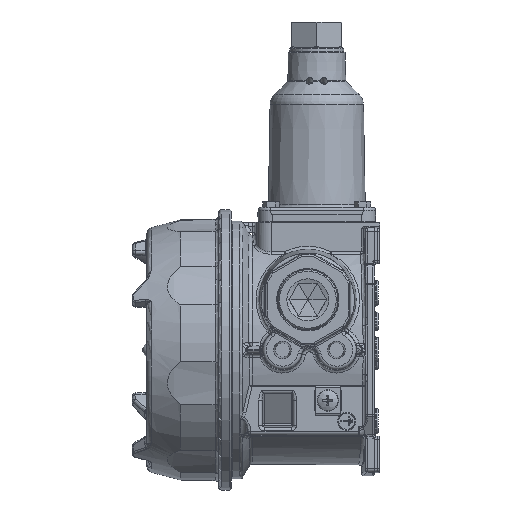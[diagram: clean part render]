
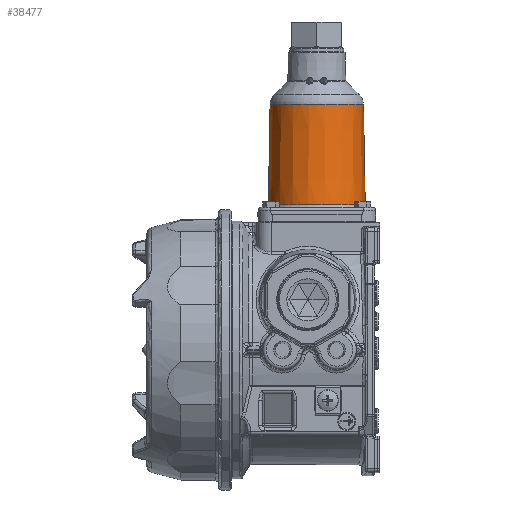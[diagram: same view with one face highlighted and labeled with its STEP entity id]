
A CAD part, left-side view. The second image highlights one B-rep face of the part: STEP entity #38477.
In plain terms, the highlighted conical face has half-angle 1 degrees and reference radius 21.463 mm.
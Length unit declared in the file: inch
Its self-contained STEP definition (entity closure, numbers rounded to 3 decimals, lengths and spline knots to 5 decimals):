
#1022 = DIRECTION ( 'NONE',  ( 0., -1., 0. ) ) ;
#3150 = FACE_BOUND ( 'NONE', #31677, .T. ) ;
#6840 = CARTESIAN_POINT ( 'NONE',  ( 0.0005, 0.81414, 4.2809 ) ) ;
#7999 = AXIS2_PLACEMENT_3D ( 'NONE', #11709, #39856, #18406 ) ;
#10188 = CARTESIAN_POINT ( 'NONE',  ( 0.0005, 0.0005, 2.53329 ) ) ;
#10283 = DIRECTION ( 'NONE',  ( 0., 0., -1. ) ) ;
#10641 = CIRCLE ( 'NONE', #33416, 0.81364 ) ;
#11277 = ORIENTED_EDGE ( 'NONE', *, *, #33120, .T. ) ;
#11709 = CARTESIAN_POINT ( 'NONE',  ( 0.0005, 0.0005, 2.48416 ) ) ;
#13343 = CARTESIAN_POINT ( 'NONE',  ( 0.0005, -0.84364, 2.53329 ) ) ;
#18406 = DIRECTION ( 'NONE',  ( 0., -1., 0. ) ) ;
#22602 = DIRECTION ( 'NONE',  ( 0., 0., 1. ) ) ;
#22692 = DIRECTION ( 'NONE',  ( 0., 1., 0. ) ) ;
#24390 = VERTEX_POINT ( 'NONE', #6840 ) ;
#25262 = EDGE_CURVE ( 'NONE', #24390, #24390, #10641, .T. ) ;
#28163 = CONICAL_SURFACE ( 'NONE', #7999, 0.845, 0.017 ) ;
#31677 = EDGE_LOOP ( 'NONE', ( #40199 ) ) ;
#33120 = EDGE_CURVE ( 'NONE', #37828, #37828, #34426, .T. ) ;
#33416 = AXIS2_PLACEMENT_3D ( 'NONE', #38223, #10283, #22692 ) ;
#34426 = CIRCLE ( 'NONE', #39641, 0.84414 ) ;
#37222 = FACE_OUTER_BOUND ( 'NONE', #39993, .T. ) ;
#37828 = VERTEX_POINT ( 'NONE', #13343 ) ;
#38223 = CARTESIAN_POINT ( 'NONE',  ( 0.0005, 0.0005, 4.2809 ) ) ;
#38477 = ADVANCED_FACE ( 'NONE', ( #3150, #37222 ), #28163, .T. ) ;
#39641 = AXIS2_PLACEMENT_3D ( 'NONE', #10188, #22602, #1022 ) ;
#39856 = DIRECTION ( 'NONE',  ( 0., 0., -1. ) ) ;
#39993 = EDGE_LOOP ( 'NONE', ( #11277 ) ) ;
#40199 = ORIENTED_EDGE ( 'NONE', *, *, #25262, .T. ) ;
